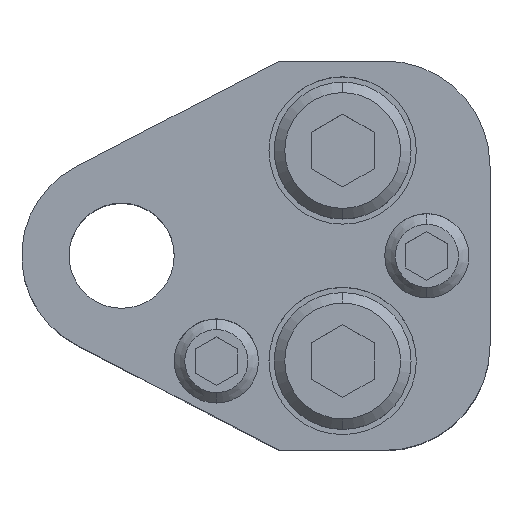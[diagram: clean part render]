
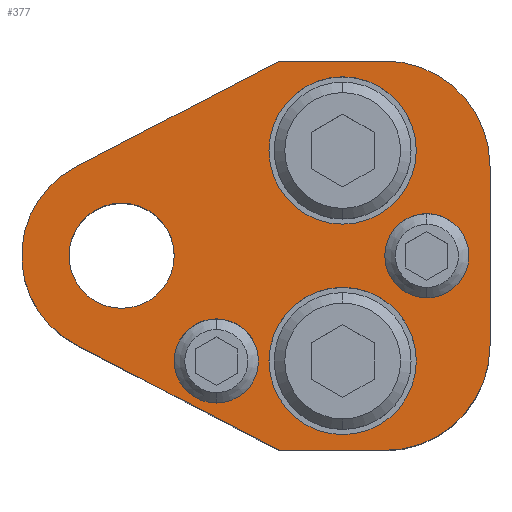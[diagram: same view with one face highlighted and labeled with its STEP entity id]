
A CAD part, top view. The second image highlights one B-rep face of the part: STEP entity #377.
In plain terms, the highlighted planar face has unit normal (0, 0, 1).
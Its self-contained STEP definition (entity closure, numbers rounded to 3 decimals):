
#148=FACE_BOUND('',#698,.T.);
#149=FACE_BOUND('',#699,.T.);
#150=FACE_BOUND('',#700,.T.);
#151=FACE_BOUND('',#701,.T.);
#152=FACE_BOUND('',#702,.T.);
#153=FACE_BOUND('',#703,.T.);
#226=CIRCLE('',#2236,10.);
#228=CIRCLE('',#2240,10.);
#230=CIRCLE('',#2244,7.);
#232=CIRCLE('',#2247,7.);
#234=CIRCLE('',#2250,7.);
#236=CIRCLE('',#2253,7.);
#239=CIRCLE('',#2259,9.5);
#264=CIRCLE('',#2303,4.);
#265=CIRCLE('',#2304,4.);
#266=CIRCLE('',#2305,4.);
#267=CIRCLE('',#2306,4.);
#268=CIRCLE('',#2307,5.);
#269=CIRCLE('',#2308,5.);
#377=ADVANCED_FACE('',(#148,#149,#150,#151,#152,#153),#492,.T.);
#492=PLANE('',#2309);
#698=EDGE_LOOP('',(#957,#958,#959,#960,#961,#962,#963,#964));
#699=EDGE_LOOP('',(#965,#966));
#700=EDGE_LOOP('',(#967,#968));
#701=EDGE_LOOP('',(#969,#970));
#702=EDGE_LOOP('',(#971,#972));
#703=EDGE_LOOP('',(#973,#974));
#957=ORIENTED_EDGE('',*,*,#1629,.T.);
#958=ORIENTED_EDGE('',*,*,#1637,.T.);
#959=ORIENTED_EDGE('',*,*,#1634,.T.);
#960=ORIENTED_EDGE('',*,*,#1599,.T.);
#961=ORIENTED_EDGE('',*,*,#1603,.T.);
#962=ORIENTED_EDGE('',*,*,#1606,.T.);
#963=ORIENTED_EDGE('',*,*,#1609,.T.);
#964=ORIENTED_EDGE('',*,*,#1613,.T.);
#965=ORIENTED_EDGE('',*,*,#1679,.F.);
#966=ORIENTED_EDGE('',*,*,#1680,.F.);
#967=ORIENTED_EDGE('',*,*,#1681,.F.);
#968=ORIENTED_EDGE('',*,*,#1682,.F.);
#969=ORIENTED_EDGE('',*,*,#1624,.F.);
#970=ORIENTED_EDGE('',*,*,#1620,.F.);
#971=ORIENTED_EDGE('',*,*,#1618,.F.);
#972=ORIENTED_EDGE('',*,*,#1614,.F.);
#973=ORIENTED_EDGE('',*,*,#1683,.T.);
#974=ORIENTED_EDGE('',*,*,#1684,.T.);
#1410=VERTEX_POINT('',#3175);
#1411=VERTEX_POINT('',#3177);
#1414=VERTEX_POINT('',#3184);
#1416=VERTEX_POINT('',#3190);
#1418=VERTEX_POINT('',#3196);
#1420=VERTEX_POINT('',#3203);
#1421=VERTEX_POINT('',#3207);
#1422=VERTEX_POINT('',#3208);
#1425=VERTEX_POINT('',#3219);
#1426=VERTEX_POINT('',#3220);
#1432=VERTEX_POINT('',#3236);
#1436=VERTEX_POINT('',#3247);
#1464=VERTEX_POINT('',#3345);
#1465=VERTEX_POINT('',#3346);
#1466=VERTEX_POINT('',#3349);
#1467=VERTEX_POINT('',#3350);
#1468=VERTEX_POINT('',#3353);
#1469=VERTEX_POINT('',#3354);
#1599=EDGE_CURVE('',#1411,#1410,#1895,.T.);
#1603=EDGE_CURVE('',#1410,#1414,#226,.T.);
#1606=EDGE_CURVE('',#1414,#1416,#1900,.T.);
#1609=EDGE_CURVE('',#1416,#1418,#228,.T.);
#1613=EDGE_CURVE('',#1418,#1420,#1905,.T.);
#1614=EDGE_CURVE('',#1421,#1422,#230,.T.);
#1618=EDGE_CURVE('',#1422,#1421,#232,.T.);
#1620=EDGE_CURVE('',#1425,#1426,#234,.T.);
#1624=EDGE_CURVE('',#1426,#1425,#236,.T.);
#1629=EDGE_CURVE('',#1420,#1432,#1913,.T.);
#1634=EDGE_CURVE('',#1436,#1411,#1918,.T.);
#1637=EDGE_CURVE('',#1432,#1436,#239,.T.);
#1679=EDGE_CURVE('',#1464,#1465,#264,.T.);
#1680=EDGE_CURVE('',#1465,#1464,#265,.T.);
#1681=EDGE_CURVE('',#1466,#1467,#266,.T.);
#1682=EDGE_CURVE('',#1467,#1466,#267,.T.);
#1683=EDGE_CURVE('',#1468,#1469,#268,.T.);
#1684=EDGE_CURVE('',#1469,#1468,#269,.T.);
#1895=LINE('',#3176,#2065);
#1900=LINE('',#3191,#2070);
#1905=LINE('',#3204,#2075);
#1913=LINE('',#3237,#2083);
#1918=LINE('',#3246,#2088);
#2065=VECTOR('',#2493,1.);
#2070=VECTOR('',#2506,1.);
#2075=VECTOR('',#2519,1.);
#2083=VECTOR('',#2553,1.);
#2088=VECTOR('',#2560,1.);
#2236=AXIS2_PLACEMENT_3D('',#3185,#2499,#2500);
#2240=AXIS2_PLACEMENT_3D('',#3197,#2511,#2512);
#2244=AXIS2_PLACEMENT_3D('',#3206,#2522,#2523);
#2247=AXIS2_PLACEMENT_3D('',#3215,#2530,#2531);
#2250=AXIS2_PLACEMENT_3D('',#3218,#2536,#2537);
#2253=AXIS2_PLACEMENT_3D('',#3227,#2544,#2545);
#2259=AXIS2_PLACEMENT_3D('',#3251,#2566,#2567);
#2303=AXIS2_PLACEMENT_3D('',#3344,#2670,#2671);
#2304=AXIS2_PLACEMENT_3D('',#3347,#2672,#2673);
#2305=AXIS2_PLACEMENT_3D('',#3348,#2674,#2675);
#2306=AXIS2_PLACEMENT_3D('',#3351,#2676,#2677);
#2307=AXIS2_PLACEMENT_3D('',#3352,#2678,#2679);
#2308=AXIS2_PLACEMENT_3D('',#3355,#2680,#2681);
#2309=AXIS2_PLACEMENT_3D('',#3356,#2682,#2683);
#2493=DIRECTION('',(1.,0.,0.));
#2499=DIRECTION('',(0.,0.,1.));
#2500=DIRECTION('',(-0.707,0.707,0.));
#2506=DIRECTION('',(0.,1.,0.));
#2511=DIRECTION('',(0.,0.,1.));
#2512=DIRECTION('',(-0.707,-0.707,0.));
#2519=DIRECTION('',(-1.,0.,0.));
#2522=DIRECTION('',(0.,0.,1.));
#2523=DIRECTION('',(-1.,0.,0.));
#2530=DIRECTION('',(0.,0.,1.));
#2531=DIRECTION('',(1.,0.,0.));
#2536=DIRECTION('',(0.,0.,1.));
#2537=DIRECTION('',(-1.,0.,0.));
#2544=DIRECTION('',(0.,0.,1.));
#2545=DIRECTION('',(1.,0.,0.));
#2553=DIRECTION('',(-0.887,-0.461,0.));
#2560=DIRECTION('',(0.887,-0.461,0.));
#2566=DIRECTION('',(0.,0.,1.));
#2567=DIRECTION('',(1.,0.,0.));
#2670=DIRECTION('',(0.,0.,1.));
#2671=DIRECTION('',(1.,0.,0.));
#2672=DIRECTION('',(0.,0.,1.));
#2673=DIRECTION('',(-1.,0.,0.));
#2674=DIRECTION('',(0.,0.,1.));
#2675=DIRECTION('',(1.,0.,0.));
#2676=DIRECTION('',(0.,0.,1.));
#2677=DIRECTION('',(-1.,0.,0.));
#2678=DIRECTION('',(0.,0.,-1.));
#2679=DIRECTION('',(-1.,0.,0.));
#2680=DIRECTION('',(0.,0.,-1.));
#2681=DIRECTION('',(1.,0.,0.));
#2682=DIRECTION('',(0.,0.,1.));
#2683=DIRECTION('',(0.887,0.461,0.));
#3175=CARTESIAN_POINT('',(25.,-18.5,30.));
#3176=CARTESIAN_POINT('',(25.,-18.5,30.));
#3177=CARTESIAN_POINT('',(15.,-18.5,30.));
#3184=CARTESIAN_POINT('',(35.,-8.5,30.));
#3185=CARTESIAN_POINT('',(25.,-8.5,30.));
#3190=CARTESIAN_POINT('',(35.,8.5,30.));
#3191=CARTESIAN_POINT('',(35.,8.5,30.));
#3196=CARTESIAN_POINT('',(25.,18.5,30.));
#3197=CARTESIAN_POINT('',(25.,8.5,30.));
#3203=CARTESIAN_POINT('',(15.,18.5,30.));
#3204=CARTESIAN_POINT('',(25.,18.5,30.));
#3206=CARTESIAN_POINT('',(21.,10.,30.));
#3207=CARTESIAN_POINT('',(21.,3.,30.));
#3208=CARTESIAN_POINT('',(21.,17.,30.));
#3215=CARTESIAN_POINT('',(21.,10.,30.));
#3218=CARTESIAN_POINT('',(21.,-10.,30.));
#3219=CARTESIAN_POINT('',(21.,-17.,30.));
#3220=CARTESIAN_POINT('',(21.,-3.,30.));
#3227=CARTESIAN_POINT('',(21.,-10.,30.));
#3236=CARTESIAN_POINT('',(-4.38,8.43,30.));
#3237=CARTESIAN_POINT('',(15.,18.5,30.));
#3246=CARTESIAN_POINT('',(15.,-18.5,30.));
#3247=CARTESIAN_POINT('',(-4.38,-8.43,30.));
#3251=CARTESIAN_POINT('',(0.,0.,30.));
#3344=CARTESIAN_POINT('',(9.,-10.,30.));
#3345=CARTESIAN_POINT('',(9.,-6.,30.));
#3346=CARTESIAN_POINT('',(9.,-14.,30.));
#3347=CARTESIAN_POINT('',(9.,-10.,30.));
#3348=CARTESIAN_POINT('',(29.,0.,30.));
#3349=CARTESIAN_POINT('',(29.,4.,30.));
#3350=CARTESIAN_POINT('',(29.,-4.,30.));
#3351=CARTESIAN_POINT('',(29.,0.,30.));
#3352=CARTESIAN_POINT('',(0.,0.,30.));
#3353=CARTESIAN_POINT('',(0.,5.,30.));
#3354=CARTESIAN_POINT('',(0.,-5.,30.));
#3355=CARTESIAN_POINT('',(0.,0.,30.));
#3356=CARTESIAN_POINT('',(15.,18.5,30.));
